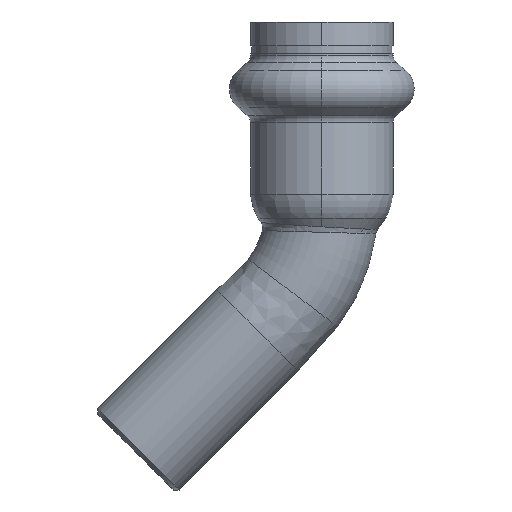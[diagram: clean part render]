
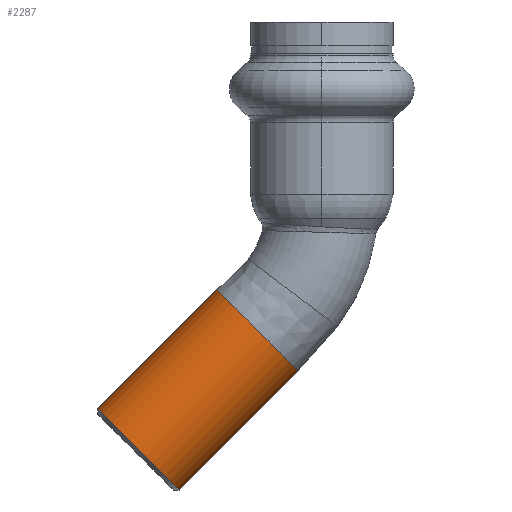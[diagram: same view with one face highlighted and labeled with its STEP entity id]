
A CAD part, left-side view. The second image highlights one B-rep face of the part: STEP entity #2287.
In plain terms, the highlighted cylindrical face has radius 6 mm (diameter 12 mm), a partial arc.
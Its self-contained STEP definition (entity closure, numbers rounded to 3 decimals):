
#22 = CARTESIAN_POINT ( 'NONE',  ( 0., 23.405, -14.92 ) ) ;
#54 = FACE_OUTER_BOUND ( 'NONE', #803, .T. ) ;
#75 = EDGE_CURVE ( 'NONE', #1587, #1662, #1814, .T. ) ;
#108 = VERTEX_POINT ( 'NONE', #2115 ) ;
#163 = ORIENTED_EDGE ( 'NONE', *, *, #2304, .F. ) ;
#191 = EDGE_CURVE ( 'NONE', #214, #1587, #1668, .T. ) ;
#214 = VERTEX_POINT ( 'NONE', #831 ) ;
#240 = VECTOR ( 'NONE', #869, 1000. ) ;
#340 = CYLINDRICAL_SURFACE ( 'NONE', #2128, 6. ) ;
#359 = ORIENTED_EDGE ( 'NONE', *, *, #75, .T. ) ;
#483 = LINE ( 'NONE', #1758, #998 ) ;
#516 = DIRECTION ( 'NONE',  ( 0., -0.707, 0.707 ) ) ;
#598 = DIRECTION ( 'NONE',  ( 0., 0.707, 0.707 ) ) ;
#764 = ORIENTED_EDGE ( 'NONE', *, *, #1750, .T. ) ;
#803 = EDGE_LOOP ( 'NONE', ( #163, #764, #1862, #359 ) ) ;
#831 = CARTESIAN_POINT ( 'NONE',  ( 0., 10.96, -2.475 ) ) ;
#846 = CARTESIAN_POINT ( 'NONE',  ( 0., 28.614, -20.129 ) ) ;
#869 = DIRECTION ( 'NONE',  ( 0., 0.707, -0.707 ) ) ;
#998 = VECTOR ( 'NONE', #2141, 1000. ) ;
#1122 = AXIS2_PLACEMENT_3D ( 'NONE', #2412, #2417, #2435 ) ;
#1587 = VERTEX_POINT ( 'NONE', #22 ) ;
#1662 = VERTEX_POINT ( 'NONE', #1788 ) ;
#1668 = LINE ( 'NONE', #846, #240 ) ;
#1750 = EDGE_CURVE ( 'NONE', #108, #214, #2077, .T. ) ;
#1751 = DIRECTION ( 'NONE',  ( 0., 0.707, -0.707 ) ) ;
#1758 = CARTESIAN_POINT ( 'NONE',  ( 0., 20.129, -28.614 ) ) ;
#1788 = CARTESIAN_POINT ( 'NONE',  ( 0., 14.92, -23.405 ) ) ;
#1814 = CIRCLE ( 'NONE', #2299, 6. ) ;
#1862 = ORIENTED_EDGE ( 'NONE', *, *, #191, .T. ) ;
#2077 = CIRCLE ( 'NONE', #1122, 6. ) ;
#2090 = CARTESIAN_POINT ( 'NONE',  ( 0., 19.163, -19.163 ) ) ;
#2115 = CARTESIAN_POINT ( 'NONE',  ( 0., 2.475, -10.96 ) ) ;
#2128 = AXIS2_PLACEMENT_3D ( 'NONE', #2187, #1751, #2214 ) ;
#2141 = DIRECTION ( 'NONE',  ( 0., 0.707, -0.707 ) ) ;
#2187 = CARTESIAN_POINT ( 'NONE',  ( 0., 24.371, -24.371 ) ) ;
#2214 = DIRECTION ( 'NONE',  ( 0., 0.707, 0.707 ) ) ;
#2287 = ADVANCED_FACE ( 'NONE', ( #54 ), #340, .T. ) ;
#2299 = AXIS2_PLACEMENT_3D ( 'NONE', #2090, #516, #598 ) ;
#2304 = EDGE_CURVE ( 'NONE', #108, #1662, #483, .T. ) ;
#2412 = CARTESIAN_POINT ( 'NONE',  ( 0., 6.718, -6.718 ) ) ;
#2417 = DIRECTION ( 'NONE',  ( 0., 0.707, -0.707 ) ) ;
#2435 = DIRECTION ( 'NONE',  ( 0., 0.707, 0.707 ) ) ;
